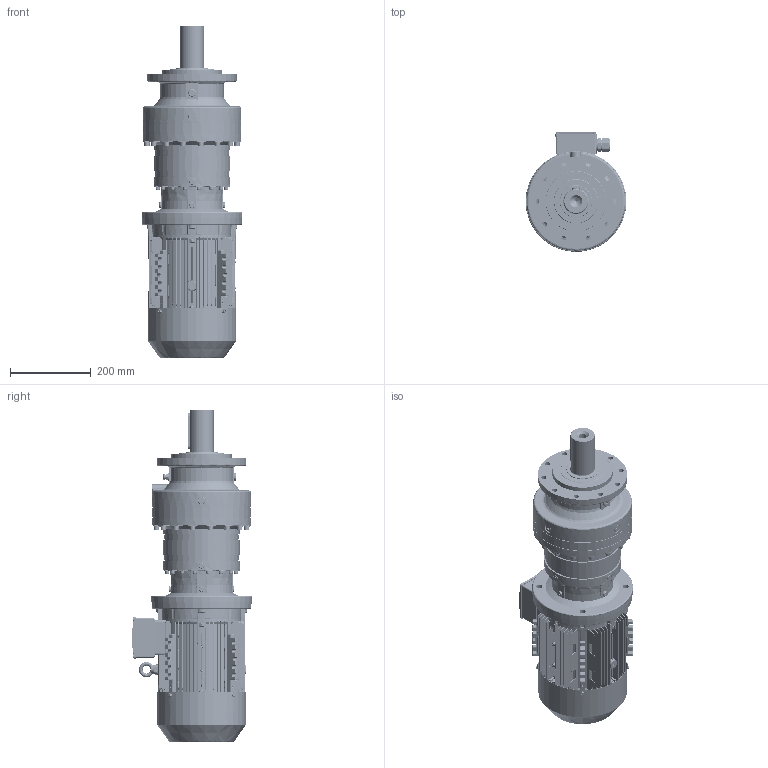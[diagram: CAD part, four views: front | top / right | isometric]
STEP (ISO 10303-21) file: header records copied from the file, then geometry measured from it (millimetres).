
FILE_DESCRIPTION (( 'STEP AP203' ), '1' );
FILE_NAME ('PVL-1503L-MX112M-4.STEP', '2019-05-13T10:05:40', ( '' ), ( '' ), 'SwSTEP 2.0', 'SolidWorks 2012', '' );
FILE_SCHEMA (( 'CONFIG_CONTROL_DESIGN' ));
Products named in the file (30): MX3-112_B5; rivets for name plate gb_GB_OTHERRIVETS_TYPE93 2.5X5; PVL-1503L-MX112M-4; eyebolts gb_GB_FASTENER_SCREWS_FRS M8-N_1; DMX-IE3 112  cable glands_1; DMX-IE3 112B5 flage; hexagon flange head tapping screws gb_GB_SQUARE_AND_HEXAGON_TYPE137 ST4.8X9.5 C-N_1; cross recessed pan head screws gb_GB_CROSS_SCREWS_TYPE1 M5X12-12  H type-N_1; DMX-IE3 112terminal box base_1; DMX-IE3 112terminal box cover_1; plain parallel keys_GB_CONNECTING_PIECE_KEYS_CSK 8X50_1; hexagon socket head cap screws gb_GB_FASTENER_SCREWS_HSHCS M8X40-N_1; DMX-IE3 112   fan cover_1; hexagon nuts grade c gb_GB_FASTENER_NUT_SNC1 M8-N_1; DMX-IE3 112 fan_1; spring lock washers--normal type gb_GB_FASTENER_WASHER_SW 8_1; DMX-IE3 oil seal_1; circlips for shaft--type a large gb_GB_CONNECTING_PIECE_RING_RRA 28_1; deep groove ball bearings gb_Rolling bearings 6206 GB 276-94_1; DMX-IE3 112M4  oil seal_1; deep groove ball bearings gb_Rolling bearings 6306 GB 276-94_1; DMX-IE3 112 shield_1; PNL_1503L_0_0_A11_B5_ML13A_FL3A; FL3A_Varsayìlan; DMX-IE3 112 shaft_1; DMX-IE3 112M4 casing_1; 11112B5_Varsayìlan; EK1503L_Varsayìlan; ML13A_Varsayìlan; P15_Varsayìlan
Assembly tree (59 placements, depth 3):
  PVL-1503L-MX112M-4
    PNL_1503L_0_0_A11_B5_ML13A_FL3A
      P15_Varsayìlan
      11112B5_Varsayìlan
      ML13A_Varsayìlan
      EK1503L_Varsayìlan
      FL3A_Varsayìlan
    MX3-112_B5
      DMX-IE3 112M4 casing_1
      DMX-IE3 112 shaft_1
      DMX-IE3 112 shield_1
      deep groove ball bearings gb_Rolling bearings 6306 GB 276-94_1
      deep groove ball bearings gb_Rolling bearings 6206 GB 276-94_1
      DMX-IE3 112M4  oil seal_1
      DMX-IE3 oil seal_1
      DMX-IE3 112 fan_1
      circlips for shaft--type a large gb_GB_CONNECTING_PIECE_RING_RRA 28_1
      spring lock washers--normal type gb_GB_FASTENER_WASHER_SW 8_1  x8
      hexagon nuts grade c gb_GB_FASTENER_NUT_SNC1 M8-N_1  x8
      hexagon socket head cap screws gb_GB_FASTENER_SCREWS_HSHCS M8X40-N_1  x8
      DMX-IE3 112   fan cover_1
      plain parallel keys_GB_CONNECTING_PIECE_KEYS_CSK 8X50_1
      DMX-IE3 112terminal box base_1
      DMX-IE3 112terminal box cover_1
      cross recessed pan head screws gb_GB_CROSS_SCREWS_TYPE1 M5X12-12  H type-N_1  x4
      eyebolts gb_GB_FASTENER_SCREWS_FRS M8-N_1
      hexagon flange head tapping screws gb_GB_SQUARE_AND_HEXAGON_TYPE137 ST4.8X9.5 C-N_1  x5
      DMX-IE3 112  cable glands_1  x2
      DMX-IE3 112B5 flage
      rivets for name plate gb_GB_OTHERRIVETS_TYPE93 2.5X5  x2
Bounding box: 250 x 297.6 x 823.95 mm (x, y, z)
Volume: 13018646 mm3; surface area: 2129192.6 mm2
Topology: 61 solids, 67 shells, 8294 faces, 21518 edges, 13251 vertices
Faces by surface type: plane 3067, cylinder 2333, bspline 1772, cone 728, torus 264, sphere 130
Entity records: 299407 total; most frequent: CARTESIAN_POINT 119056, ORIENTED_EDGE 39446, DIRECTION 33996, EDGE_CURVE 19726, AXIS2_PLACEMENT_3D 12663, VERTEX_POINT 12284, LINE 8670, VECTOR 8670
